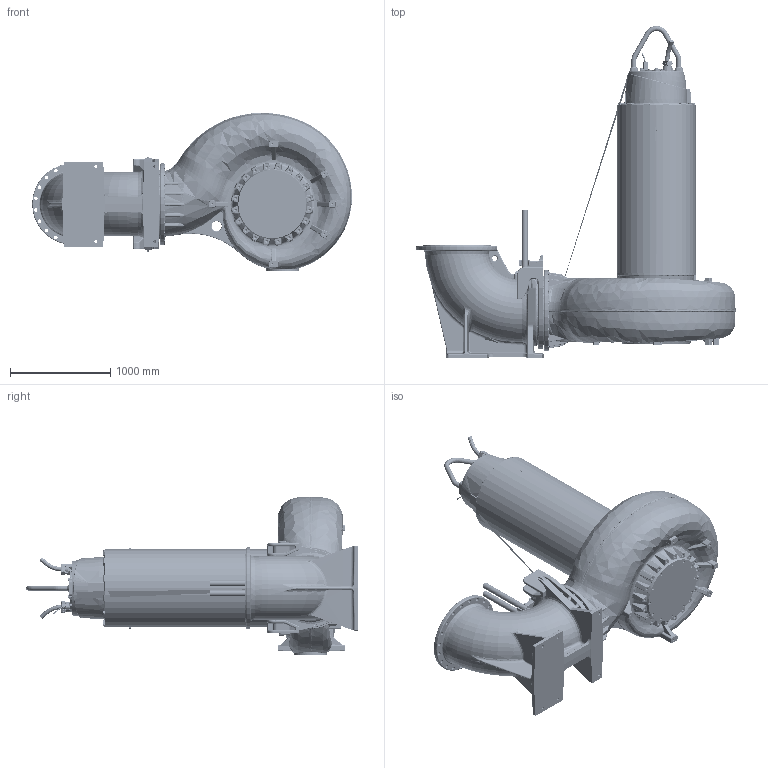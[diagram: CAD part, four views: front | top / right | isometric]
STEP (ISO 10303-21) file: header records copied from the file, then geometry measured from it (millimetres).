
FILE_DESCRIPTION (( 'STEP AP214' ), '1' );
FILE_NAME ('PE7_XFP600-SK3_WET 2guide _E.STEP', '2017-04-04T06:19:53', ( '' ), ( '' ), 'SwSTEP 2.0', 'SolidWorks 2017', '' );
FILE_SCHEMA (( 'AUTOMOTIVE_DESIGN' ));
Length unit declared in the file: millimetre
Products named in the file (1): PE7_XFP600-SK3_WET 2guide _E
Bounding box: 3196.1 x 3317.98 x 1582.72 mm (x, y, z)
Volume: 2598817340.6 mm3; surface area: 22723492.3 mm2
Topology: 4 solids, 25 shells, 6164 faces, 15142 edges, 8825 vertices
Faces by surface type: bspline 1769, plane 1546, cylinder 1533, torus 579, cone 474, sphere 263
Entity records: 370431 total; most frequent: CARTESIAN_POINT 172105, ORIENTED_EDGE 29396, DIRECTION 24429, EDGE_CURVE 14698, AXIS2_PLACEMENT_3D 9742, VERTEX_POINT 8815, EDGE_LOOP 6613, UNCERTAINTY_MEASURE_WITH_UNIT 6170
